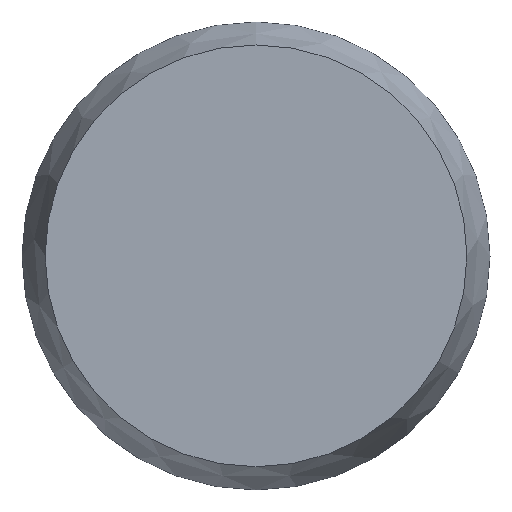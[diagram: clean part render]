
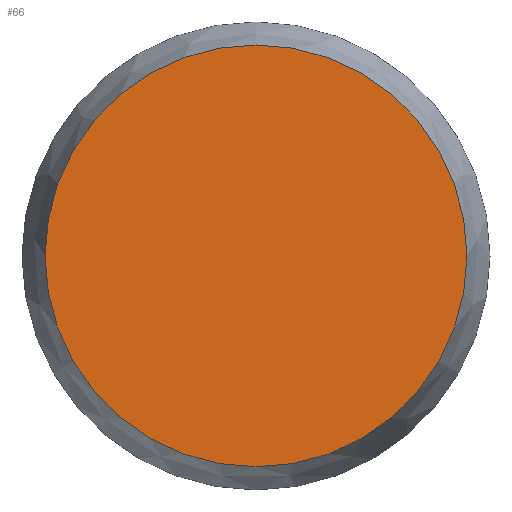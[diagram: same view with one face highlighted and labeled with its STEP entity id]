
A CAD part, top view. The second image highlights one B-rep face of the part: STEP entity #66.
In plain terms, the highlighted planar face has unit normal (0, 0, 1).
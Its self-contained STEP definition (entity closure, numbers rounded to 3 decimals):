
#26=FACE_OUTER_BOUND('',#32,.T.);
#32=EDGE_LOOP('',(#58));
#36=CIRCLE('',#88,68.546);
#40=VERTEX_POINT('',#124);
#46=EDGE_CURVE('',#40,#40,#36,.T.);
#58=ORIENTED_EDGE('',*,*,#46,.T.);
#61=PLANE('',#89);
#66=ADVANCED_FACE('',(#26),#61,.T.);
#88=AXIS2_PLACEMENT_3D('',#126,#108,#109);
#89=AXIS2_PLACEMENT_3D('',#127,#110,#111);
#108=DIRECTION('center_axis',(0.,0.,1.));
#109=DIRECTION('ref_axis',(-0.175,-0.985,0.));
#110=DIRECTION('center_axis',(0.,0.,1.));
#111=DIRECTION('ref_axis',(1.,0.,0.));
#124=CARTESIAN_POINT('',(3.998,139.239,2.5));
#126=CARTESIAN_POINT('Origin',(3.998,70.693,2.5));
#127=CARTESIAN_POINT('Origin',(3.998,2.148,2.5));
